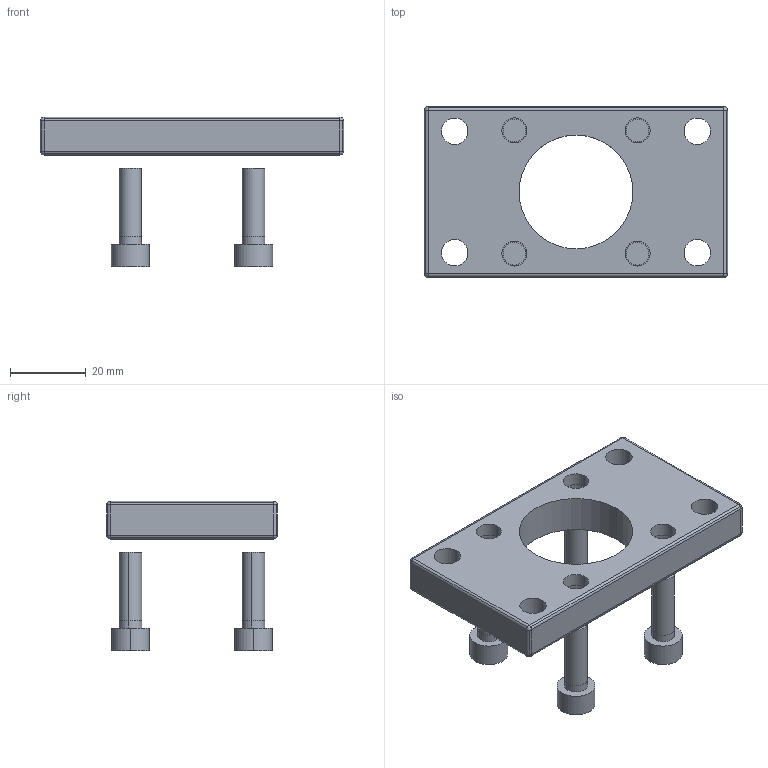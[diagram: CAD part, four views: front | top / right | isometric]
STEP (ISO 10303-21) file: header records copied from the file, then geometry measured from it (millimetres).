
FILE_DESCRIPTION((''),'2;1');
FILE_NAME('FLIS032.stp','2007-12-02T07:53:12',('BP'),('AZ PNEUMATICA S.r.l.'),'Mechanical Desktop 2006','Mechanical Desktop 2006','Via Marco Biagi 6, 20020 Misinto (MI) Italia, azpneu@tin.it');
FILE_SCHEMA(('CONFIG_CONTROL_DESIGN'));
Length unit declared in the file: millimetre
Products named in the file (3): PLOCA CILINDRA; PLOCA; VIJAK IMBUS
Assembly tree (5 placements, depth 2):
  PLOCA CILINDRA
    PLOCA
    VIJAK IMBUS  x4
Bounding box: 80 x 45 x 39.5 mm (x, y, z)
Volume: 28434.3 mm3; surface area: 13540 mm2
Topology: 5 solids, 5 shells, 132 faces, 314 edges, 192 vertices
Faces by surface type: cylinder 74, plane 50, sphere 8
Entity records: 2665 total; most frequent: DIRECTION 498, CARTESIAN_POINT 420, ORIENTED_EDGE 408, AXIS2_PLACEMENT_3D 204, EDGE_CURVE 204, VERTEX_POINT 126, CIRCLE 114, EDGE_LOOP 104
